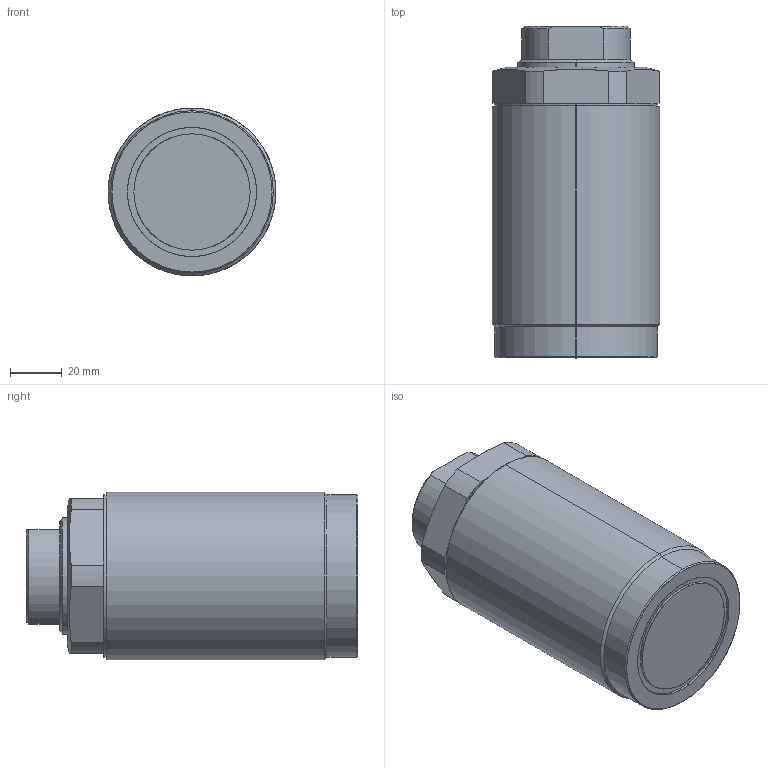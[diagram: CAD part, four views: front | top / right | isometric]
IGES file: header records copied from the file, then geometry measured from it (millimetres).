
Start section: SolidWorks IGES file using analytic representation for surfaces
Global section: file name: D:\karuppas\Clasp\3D model\Thread body cylinder\T03C-M657-L threaded pusher\T03C-M657-L threaded pusher.IGS; native system: SolidWorks 2017; preprocessor: SolidWorks 2017; author: pc; date: 220709.231642; units: millimetre
Bounding box: 65 x 128.5 x 65 mm (x, y, z)
Surface area: 44562.1 mm2 (no closed solid volume)
Topology: 0 solids, 0 shells, 248 faces, 3271 edges, 3269 vertices
Faces by surface type: bspline 212, revolution 36
